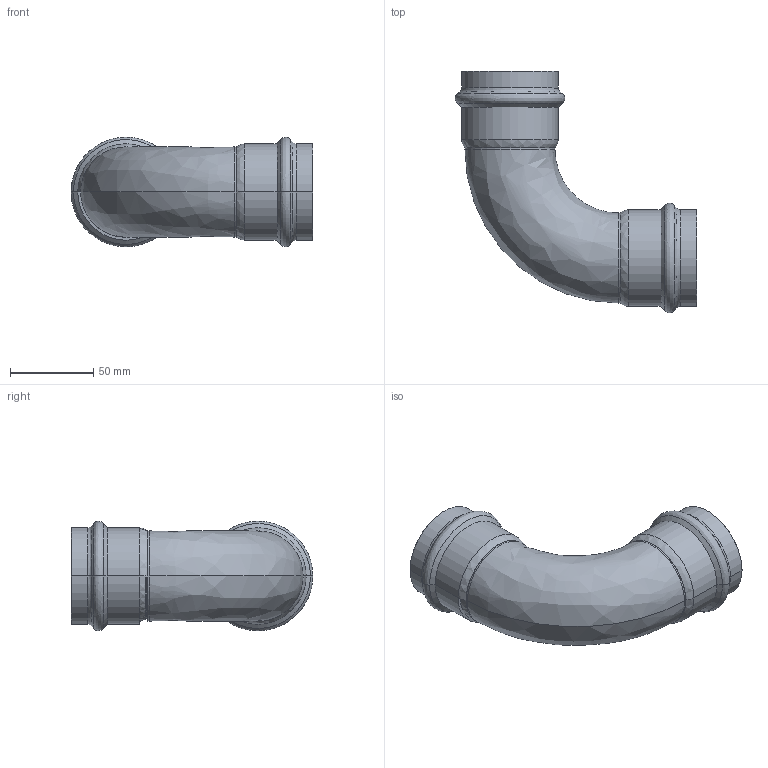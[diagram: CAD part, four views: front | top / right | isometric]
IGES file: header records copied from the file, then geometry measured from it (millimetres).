
Start section: Elysium IGES Interface
Global section: file name: C:\3d modellen sudo\C-Pr VP\SP8002V\8002VW54.igs; native system: CoCreate Modeling 17.00A  17-Jun-2010; preprocessor: CoCreate IGES_3D V2.2; author: Unknown; organization: Unknown; date: 20130129.134724; units: millimetre
Bounding box: 144.91 x 144.82 x 65.65 mm (x, y, z)
Volume: 116906.4 mm3; surface area: 75258.6 mm2
Topology: 1 solids, 2 shells, 91 faces, 180 edges, 96 vertices
Faces by surface type: bspline 91
